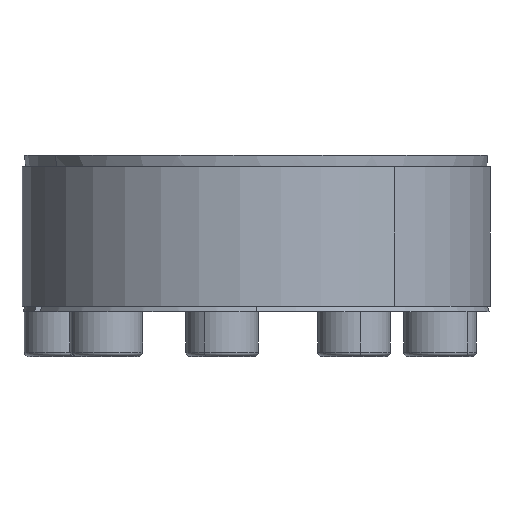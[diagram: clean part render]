
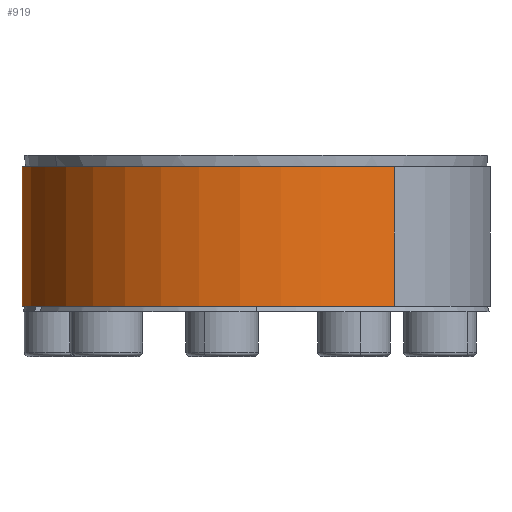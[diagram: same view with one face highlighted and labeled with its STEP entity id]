
A CAD part, left-side view. The second image highlights one B-rep face of the part: STEP entity #919.
In plain terms, the highlighted cylindrical face has radius 41.985 mm (diameter 83.97 mm), a partial arc.
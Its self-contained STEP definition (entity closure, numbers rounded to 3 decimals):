
#127 = LINE ( 'NONE', #10015, #11125 ) ;
#788 = CYLINDRICAL_SURFACE ( 'NONE', #3507, 41.985 ) ;
#919 = ADVANCED_FACE ( 'NONE', ( #7475 ), #788, .T. ) ;
#2513 = VERTEX_POINT ( 'NONE', #2750 ) ;
#2750 = CARTESIAN_POINT ( 'NONE',  ( 33.967, 24.678, 25.969 ) ) ;
#3188 = DIRECTION ( 'NONE',  ( 0., 0., 1. ) ) ;
#3337 = VERTEX_POINT ( 'NONE', #3341 ) ;
#3341 = CARTESIAN_POINT ( 'NONE',  ( 33.967, 24.678, 0.969 ) ) ;
#3507 = AXIS2_PLACEMENT_3D ( 'NONE', #7062, #12391, #11351 ) ;
#3590 = CARTESIAN_POINT ( 'NONE',  ( 0., 0., 25.969 ) ) ;
#3596 = AXIS2_PLACEMENT_3D ( 'NONE', #3590, #11068, #4678 ) ;
#3643 = DIRECTION ( 'NONE',  ( 0., 0., -1. ) ) ;
#4238 = AXIS2_PLACEMENT_3D ( 'NONE', #9602, #3188, #10655 ) ;
#4481 = VECTOR ( 'NONE', #4715, 1000. ) ;
#4678 = DIRECTION ( 'NONE',  ( -0.809, -0.588, 0. ) ) ;
#4715 = DIRECTION ( 'NONE',  ( 0., 0., -1. ) ) ;
#4895 = ORIENTED_EDGE ( 'NONE', *, *, #7392, .F. ) ;
#5160 = EDGE_LOOP ( 'NONE', ( #4895, #9056, #5432, #9246 ) ) ;
#5432 = ORIENTED_EDGE ( 'NONE', *, *, #10542, .T. ) ;
#6335 = VERTEX_POINT ( 'NONE', #7034 ) ;
#7034 = CARTESIAN_POINT ( 'NONE',  ( -33.967, -24.678, 25.969 ) ) ;
#7062 = CARTESIAN_POINT ( 'NONE',  ( 0., 0., 25.969 ) ) ;
#7139 = EDGE_CURVE ( 'NONE', #3337, #12863, #7837, .T. ) ;
#7392 = EDGE_CURVE ( 'NONE', #6335, #12863, #13016, .T. ) ;
#7475 = FACE_OUTER_BOUND ( 'NONE', #5160, .T. ) ;
#7837 = CIRCLE ( 'NONE', #4238, 41.985 ) ;
#9056 = ORIENTED_EDGE ( 'NONE', *, *, #13240, .F. ) ;
#9246 = ORIENTED_EDGE ( 'NONE', *, *, #7139, .T. ) ;
#9602 = CARTESIAN_POINT ( 'NONE',  ( 0., 0., 0.969 ) ) ;
#10015 = CARTESIAN_POINT ( 'NONE',  ( 33.967, 24.678, 25.969 ) ) ;
#10043 = CARTESIAN_POINT ( 'NONE',  ( -33.967, -24.678, 25.969 ) ) ;
#10109 = CIRCLE ( 'NONE', #3596, 41.985 ) ;
#10328 = CARTESIAN_POINT ( 'NONE',  ( -33.967, -24.678, 0.969 ) ) ;
#10542 = EDGE_CURVE ( 'NONE', #2513, #3337, #127, .T. ) ;
#10655 = DIRECTION ( 'NONE',  ( -0.809, -0.588, 0. ) ) ;
#11068 = DIRECTION ( 'NONE',  ( 0., 0., 1. ) ) ;
#11125 = VECTOR ( 'NONE', #3643, 1000. ) ;
#11351 = DIRECTION ( 'NONE',  ( 0.809, 0.588, 0. ) ) ;
#12391 = DIRECTION ( 'NONE',  ( 0., 0., -1. ) ) ;
#12863 = VERTEX_POINT ( 'NONE', #10328 ) ;
#13016 = LINE ( 'NONE', #10043, #4481 ) ;
#13240 = EDGE_CURVE ( 'NONE', #2513, #6335, #10109, .T. ) ;
